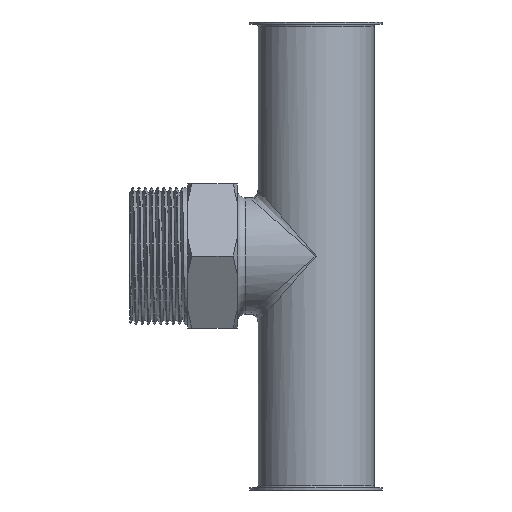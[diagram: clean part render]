
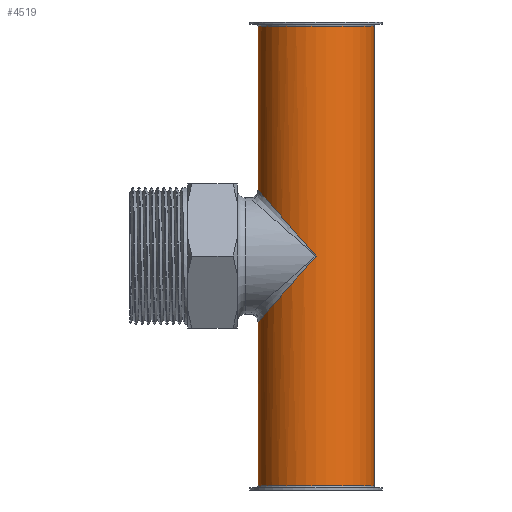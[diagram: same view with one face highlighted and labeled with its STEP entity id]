
A CAD part, front view. The second image highlights one B-rep face of the part: STEP entity #4519.
In plain terms, the highlighted cylindrical face has radius 14.01 mm (diameter 28.02 mm), a partial arc.
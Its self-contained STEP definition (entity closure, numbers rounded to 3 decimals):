
#56 = CARTESIAN_POINT ( 'NONE',  ( -8.207, -14.01, 47.122 ) ) ;
#83 = CARTESIAN_POINT ( 'NONE',  ( -14.01, 0., 112. ) ) ;
#264 = VERTEX_POINT ( 'NONE', #1498 ) ;
#433 = EDGE_LOOP ( 'NONE', ( #4467, #2311, #467, #1469, #4133, #1994, #2121 ) ) ;
#467 = ORIENTED_EDGE ( 'NONE', *, *, #4414, .T. ) ;
#501 = CARTESIAN_POINT ( 'NONE',  ( -14.01, 0., 40.49 ) ) ;
#515 = VERTEX_POINT ( 'NONE', #2115 ) ;
#646 = CARTESIAN_POINT ( 'NONE',  ( -8.207, -14.01, 65.878 ) ) ;
#676 = CARTESIAN_POINT ( 'NONE',  ( 0., -14.01, 56.5 ) ) ;
#749 = CARTESIAN_POINT ( 'NONE',  ( -14.01, 0., 72.51 ) ) ;
#765 = EDGE_CURVE ( 'NONE', #515, #1249, #3480, .T. ) ;
#787 = CARTESIAN_POINT ( 'NONE',  ( 0., -14.01, 56.5 ) ) ;
#791 = EDGE_CURVE ( 'NONE', #3100, #4109, #2489, .T. ) ;
#824 = DIRECTION ( 'NONE',  ( 0., 0., -1. ) ) ;
#1023 = DIRECTION ( 'NONE',  ( 0., 0., -1. ) ) ;
#1230 = CYLINDRICAL_SURFACE ( 'NONE', #3246, 14.01 ) ;
#1249 = VERTEX_POINT ( 'NONE', #2571 ) ;
#1403 = DIRECTION ( 'NONE',  ( -1., 0., 0. ) ) ;
#1469 = ORIENTED_EDGE ( 'NONE', *, *, #791, .T. ) ;
#1498 = CARTESIAN_POINT ( 'NONE',  ( -14.01, 0., 40.49 ) ) ;
#1553 = VECTOR ( 'NONE', #3724, 1000. ) ;
#1648 = EDGE_CURVE ( 'NONE', #264, #3632, #2718, .T. ) ;
#1889 = CARTESIAN_POINT ( 'NONE',  ( -14.01, -8.207, 40.49 ) ) ;
#1895 = VERTEX_POINT ( 'NONE', #83 ) ;
#1910 = EDGE_CURVE ( 'NONE', #4109, #264, #2112, .T. ) ;
#1917 = CIRCLE ( 'NONE', #3635, 14.01 ) ;
#1994 = ORIENTED_EDGE ( 'NONE', *, *, #1648, .T. ) ;
#2112 =( BOUNDED_CURVE ( )  B_SPLINE_CURVE ( 3, ( #787, #56, #1889, #501 ),
 .UNSPECIFIED., .F., .T. ) 
 B_SPLINE_CURVE_WITH_KNOTS ( ( 4, 4 ),
 ( 4.712, 6.283 ),
 .UNSPECIFIED. ) 
 CURVE ( )  GEOMETRIC_REPRESENTATION_ITEM ( )  RATIONAL_B_SPLINE_CURVE ( ( 1., 0.805, 0.805, 1. ) ) 
 REPRESENTATION_ITEM ( '' )  );
#2115 = CARTESIAN_POINT ( 'NONE',  ( 14.01, 0., 112. ) ) ;
#2121 = ORIENTED_EDGE ( 'NONE', *, *, #2601, .T. ) ;
#2177 = CARTESIAN_POINT ( 'NONE',  ( 0., 0., 1. ) ) ;
#2259 = FACE_OUTER_BOUND ( 'NONE', #433, .T. ) ;
#2311 = ORIENTED_EDGE ( 'NONE', *, *, #3218, .T. ) ;
#2489 =( BOUNDED_CURVE ( )  B_SPLINE_CURVE ( 3, ( #3317, #4824, #646, #676 ),
 .UNSPECIFIED., .F., .T. ) 
 B_SPLINE_CURVE_WITH_KNOTS ( ( 4, 4 ),
 ( 3.142, 4.712 ),
 .UNSPECIFIED. ) 
 CURVE ( )  GEOMETRIC_REPRESENTATION_ITEM ( )  RATIONAL_B_SPLINE_CURVE ( ( 1., 0.805, 0.805, 1. ) ) 
 REPRESENTATION_ITEM ( '' )  );
#2546 = CARTESIAN_POINT ( 'NONE',  ( 14.01, 0., 113. ) ) ;
#2571 = CARTESIAN_POINT ( 'NONE',  ( 14.01, 0., 1. ) ) ;
#2576 = DIRECTION ( 'NONE',  ( 1., 0., 0. ) ) ;
#2601 = EDGE_CURVE ( 'NONE', #3632, #1249, #1917, .T. ) ;
#2718 = LINE ( 'NONE', #3770, #4428 ) ;
#2759 = VECTOR ( 'NONE', #3478, 1000. ) ;
#3100 = VERTEX_POINT ( 'NONE', #749 ) ;
#3141 = CARTESIAN_POINT ( 'NONE',  ( 0., 0., 112. ) ) ;
#3208 = AXIS2_PLACEMENT_3D ( 'NONE', #3141, #824, #3501 ) ;
#3218 = EDGE_CURVE ( 'NONE', #515, #1895, #4708, .T. ) ;
#3246 = AXIS2_PLACEMENT_3D ( 'NONE', #3340, #1023, #1403 ) ;
#3317 = CARTESIAN_POINT ( 'NONE',  ( -14.01, 0., 72.51 ) ) ;
#3340 = CARTESIAN_POINT ( 'NONE',  ( 0., 0., 113. ) ) ;
#3464 = CARTESIAN_POINT ( 'NONE',  ( -14.01, 0., 113. ) ) ;
#3478 = DIRECTION ( 'NONE',  ( 0., 0., -1. ) ) ;
#3480 = LINE ( 'NONE', #2546, #1553 ) ;
#3501 = DIRECTION ( 'NONE',  ( -1., 0., 0. ) ) ;
#3632 = VERTEX_POINT ( 'NONE', #4759 ) ;
#3635 = AXIS2_PLACEMENT_3D ( 'NONE', #2177, #4770, #2576 ) ;
#3647 = CARTESIAN_POINT ( 'NONE',  ( 0., -14.01, 56.5 ) ) ;
#3724 = DIRECTION ( 'NONE',  ( 0., 0., -1. ) ) ;
#3770 = CARTESIAN_POINT ( 'NONE',  ( -14.01, 0., 113. ) ) ;
#4109 = VERTEX_POINT ( 'NONE', #3647 ) ;
#4133 = ORIENTED_EDGE ( 'NONE', *, *, #1910, .T. ) ;
#4414 = EDGE_CURVE ( 'NONE', #1895, #3100, #4812, .T. ) ;
#4428 = VECTOR ( 'NONE', #4842, 1000. ) ;
#4467 = ORIENTED_EDGE ( 'NONE', *, *, #765, .F. ) ;
#4519 = ADVANCED_FACE ( 'NONE', ( #2259 ), #1230, .T. ) ;
#4708 = CIRCLE ( 'NONE', #3208, 14.01 ) ;
#4759 = CARTESIAN_POINT ( 'NONE',  ( -14.01, 0., 1. ) ) ;
#4770 = DIRECTION ( 'NONE',  ( 0., 0., 1. ) ) ;
#4812 = LINE ( 'NONE', #3464, #2759 ) ;
#4824 = CARTESIAN_POINT ( 'NONE',  ( -14.01, -8.207, 72.51 ) ) ;
#4842 = DIRECTION ( 'NONE',  ( 0., 0., -1. ) ) ;
